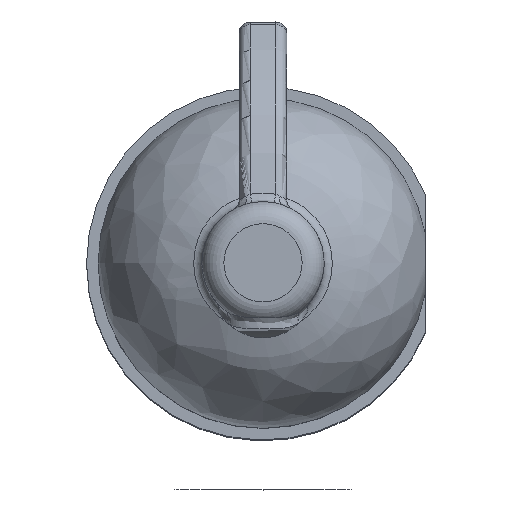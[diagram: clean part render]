
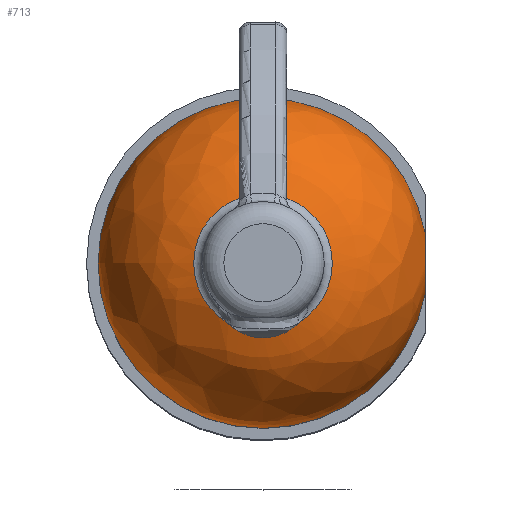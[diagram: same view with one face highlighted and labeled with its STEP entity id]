
A CAD part, top view. The second image highlights one B-rep face of the part: STEP entity #713.
In plain terms, the highlighted free-form (B-spline) face has degree [2, 2] with [3, 9] control points.
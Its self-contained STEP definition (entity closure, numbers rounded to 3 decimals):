
#50=CIRCLE('',#762,1.891);
#51=CIRCLE('',#763,3.5);
#52=CIRCLE('',#764,4.5);
#53=CIRCLE('',#765,4.5);
#107=(
BOUNDED_SURFACE()
B_SPLINE_SURFACE(2,2,((#1155,#1156,#1157,#1158,#1159,#1160,#1161,#1162,
#1163),(#1164,#1165,#1166,#1167,#1168,#1169,#1170,#1171,#1172),(#1173,#1174,
#1175,#1176,#1177,#1178,#1179,#1180,#1181)),.UNSPECIFIED.,.F.,.T.,.F.)
B_SPLINE_SURFACE_WITH_KNOTS((3,3),(3,2,2,2,3),(0.,1.313),
(-3.142,-1.571,0.,1.571,3.142),
 .UNSPECIFIED.)
GEOMETRIC_REPRESENTATION_ITEM()
RATIONAL_B_SPLINE_SURFACE(((1.,0.707,1.,0.707,1.,
0.707,1.,0.707,1.),(0.792,0.56,
0.792,0.56,0.792,0.56,
0.792,0.56,0.792),(1.,0.707,
1.,0.707,1.,0.707,1.,0.707,1.)))
REPRESENTATION_ITEM('')
SURFACE()
);
#111=FACE_OUTER_BOUND('',#158,.T.);
#158=EDGE_LOOP('',(#495,#496,#497,#498,#499,#500));
#262=B_SPLINE_CURVE_WITH_KNOTS('',3,(#1101,#1102,#1103,#1104,#1105,#1106,
#1107,#1108,#1109,#1110,#1111,#1112,#1113,#1114,#1115,#1116,#1117,#1118,
#1119,#1120,#1121,#1122),.UNSPECIFIED.,.F.,.F.,(4,2,2,2,2,2,2,2,2,2,4),
(0.108,0.124,0.141,0.163,
0.178,0.216,0.254,0.27,
0.291,0.309,0.325),.UNSPECIFIED.);
#300=VERTEX_POINT('',#1098);
#301=VERTEX_POINT('',#1100);
#311=VERTEX_POINT('',#1182);
#312=VERTEX_POINT('',#1184);
#370=EDGE_CURVE('',#301,#300,#262,.T.);
#381=EDGE_CURVE('',#311,#311,#50,.T.);
#382=EDGE_CURVE('',#311,#312,#51,.T.);
#383=EDGE_CURVE('',#301,#312,#52,.T.);
#384=EDGE_CURVE('',#312,#300,#53,.T.);
#495=ORIENTED_EDGE('',*,*,#381,.T.);
#496=ORIENTED_EDGE('',*,*,#382,.T.);
#497=ORIENTED_EDGE('',*,*,#383,.F.);
#498=ORIENTED_EDGE('',*,*,#370,.T.);
#499=ORIENTED_EDGE('',*,*,#384,.F.);
#500=ORIENTED_EDGE('',*,*,#382,.F.);
#713=ADVANCED_FACE('',(#111),#107,.T.);
#762=AXIS2_PLACEMENT_3D('',#1183,#874,#875);
#763=AXIS2_PLACEMENT_3D('',#1185,#876,#877);
#764=AXIS2_PLACEMENT_3D('',#1186,#878,#879);
#765=AXIS2_PLACEMENT_3D('',#1187,#880,#881);
#874=DIRECTION('center_axis',(0.,0.,
-1.));
#875=DIRECTION('ref_axis',(0.,1.,0.));
#876=DIRECTION('center_axis',(0.,-1.,0.));
#877=DIRECTION('ref_axis',(-1.,0.,0.));
#878=DIRECTION('center_axis',(0.,0.,
-1.));
#879=DIRECTION('ref_axis',(0.,1.,0.));
#880=DIRECTION('center_axis',(0.,0.,
-1.));
#881=DIRECTION('ref_axis',(0.,1.,0.));
#1098=CARTESIAN_POINT('',(423.695,34.125,-62.828));
#1100=CARTESIAN_POINT('',(423.695,32.572,-62.828));
#1101=CARTESIAN_POINT('Ctrl Pts',(423.695,32.572,-62.828));
#1102=CARTESIAN_POINT('Ctrl Pts',(423.695,32.572,-62.776));
#1103=CARTESIAN_POINT('Ctrl Pts',(423.695,32.581,-62.713));
#1104=CARTESIAN_POINT('Ctrl Pts',(423.695,32.61,-62.607));
#1105=CARTESIAN_POINT('Ctrl Pts',(423.695,32.639,-62.544));
#1106=CARTESIAN_POINT('Ctrl Pts',(423.695,32.709,-62.434));
#1107=CARTESIAN_POINT('Ctrl Pts',(423.695,32.767,-62.369));
#1108=CARTESIAN_POINT('Ctrl Pts',(423.695,32.864,-62.291));
#1109=CARTESIAN_POINT('Ctrl Pts',(423.695,32.916,-62.258));
#1110=CARTESIAN_POINT('Ctrl Pts',(423.695,33.074,-62.178));
#1111=CARTESIAN_POINT('Ctrl Pts',(423.695,33.222,-62.144));
#1112=CARTESIAN_POINT('Ctrl Pts',(423.695,33.474,-62.144));
#1113=CARTESIAN_POINT('Ctrl Pts',(423.695,33.622,-62.178));
#1114=CARTESIAN_POINT('Ctrl Pts',(423.695,33.781,-62.258));
#1115=CARTESIAN_POINT('Ctrl Pts',(423.695,33.832,-62.291));
#1116=CARTESIAN_POINT('Ctrl Pts',(423.695,33.929,-62.369));
#1117=CARTESIAN_POINT('Ctrl Pts',(423.695,33.988,-62.434));
#1118=CARTESIAN_POINT('Ctrl Pts',(423.695,34.058,-62.544));
#1119=CARTESIAN_POINT('Ctrl Pts',(423.695,34.086,-62.607));
#1120=CARTESIAN_POINT('Ctrl Pts',(423.695,34.116,-62.713));
#1121=CARTESIAN_POINT('Ctrl Pts',(423.695,34.125,-62.776));
#1122=CARTESIAN_POINT('Ctrl Pts',(423.695,34.125,-62.828));
#1155=CARTESIAN_POINT('Ctrl Pts',(414.762,33.348,-62.828));
#1156=CARTESIAN_POINT('Ctrl Pts',(414.762,37.848,-62.828));
#1157=CARTESIAN_POINT('Ctrl Pts',(419.262,37.848,-62.828));
#1158=CARTESIAN_POINT('Ctrl Pts',(423.762,37.848,-62.828));
#1159=CARTESIAN_POINT('Ctrl Pts',(423.762,33.348,-62.828));
#1160=CARTESIAN_POINT('Ctrl Pts',(423.762,28.848,-62.828));
#1161=CARTESIAN_POINT('Ctrl Pts',(419.262,28.848,-62.828));
#1162=CARTESIAN_POINT('Ctrl Pts',(414.762,28.848,-62.828));
#1163=CARTESIAN_POINT('Ctrl Pts',(414.762,33.348,-62.828));
#1164=CARTESIAN_POINT('Ctrl Pts',(414.762,33.348,-60.131));
#1165=CARTESIAN_POINT('Ctrl Pts',(414.762,37.848,-60.13));
#1166=CARTESIAN_POINT('Ctrl Pts',(419.262,37.848,-60.13));
#1167=CARTESIAN_POINT('Ctrl Pts',(423.762,37.848,-60.13));
#1168=CARTESIAN_POINT('Ctrl Pts',(423.762,33.348,-60.131));
#1169=CARTESIAN_POINT('Ctrl Pts',(423.762,28.848,-60.131));
#1170=CARTESIAN_POINT('Ctrl Pts',(419.262,28.848,-60.131));
#1171=CARTESIAN_POINT('Ctrl Pts',(414.762,28.848,-60.131));
#1172=CARTESIAN_POINT('Ctrl Pts',(414.762,33.348,-60.131));
#1173=CARTESIAN_POINT('Ctrl Pts',(417.371,33.348,-59.444));
#1174=CARTESIAN_POINT('Ctrl Pts',(417.371,35.24,-59.444));
#1175=CARTESIAN_POINT('Ctrl Pts',(419.262,35.24,-59.444));
#1176=CARTESIAN_POINT('Ctrl Pts',(421.153,35.24,-59.444));
#1177=CARTESIAN_POINT('Ctrl Pts',(421.153,33.348,-59.444));
#1178=CARTESIAN_POINT('Ctrl Pts',(421.153,31.457,-59.444));
#1179=CARTESIAN_POINT('Ctrl Pts',(419.262,31.457,-59.444));
#1180=CARTESIAN_POINT('Ctrl Pts',(417.371,31.457,-59.444));
#1181=CARTESIAN_POINT('Ctrl Pts',(417.371,33.348,-59.444));
#1182=CARTESIAN_POINT('',(417.371,33.348,-59.444));
#1183=CARTESIAN_POINT('Origin',(419.262,33.348,-59.444));
#1184=CARTESIAN_POINT('',(414.762,33.348,-62.828));
#1185=CARTESIAN_POINT('Origin',(418.262,33.348,-62.828));
#1186=CARTESIAN_POINT('Origin',(419.262,33.348,-62.828));
#1187=CARTESIAN_POINT('Origin',(419.262,33.348,-62.828));
